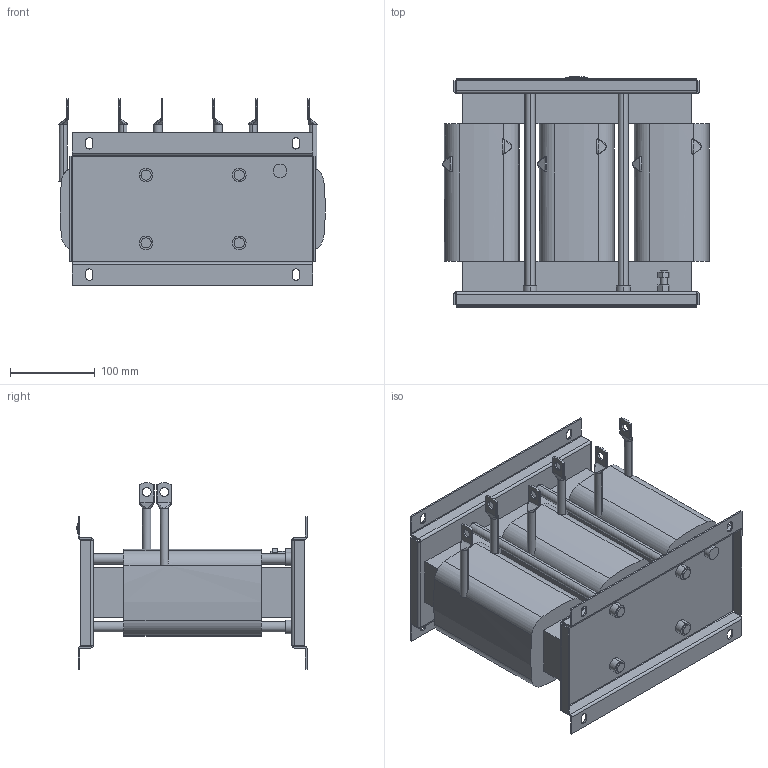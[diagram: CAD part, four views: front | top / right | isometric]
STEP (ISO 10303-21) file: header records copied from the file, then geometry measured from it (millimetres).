
FILE_DESCRIPTION (( 'STEP AP214' ), '1' );
FILE_NAME ('00Z20X0-0020.STEP', '2022-07-07T06:51:51', ( '' ), ( '' ), 'SwSTEP 2.0', 'SolidWorks 2022', '' );
FILE_SCHEMA (( 'AUTOMOTIVE_DESIGN' ));
Length unit declared in the file: centimetre
Products named in the file (1): 00Z20X0-0020
Bounding box: 314.5 x 271.72 x 220 mm (x, y, z)
Volume: 5695977.5 mm3; surface area: 523363.3 mm2
Topology: 1 solids, 1 shells, 435 faces, 1120 edges, 716 vertices
Faces by surface type: cylinder 186, plane 186, bspline 61, cone 2
Entity records: 17476 total; most frequent: CARTESIAN_POINT 6984, ORIENTED_EDGE 2240, DIRECTION 1930, EDGE_CURVE 1120, VERTEX_POINT 716, AXIS2_PLACEMENT_3D 703, VECTOR 524, LINE 524
